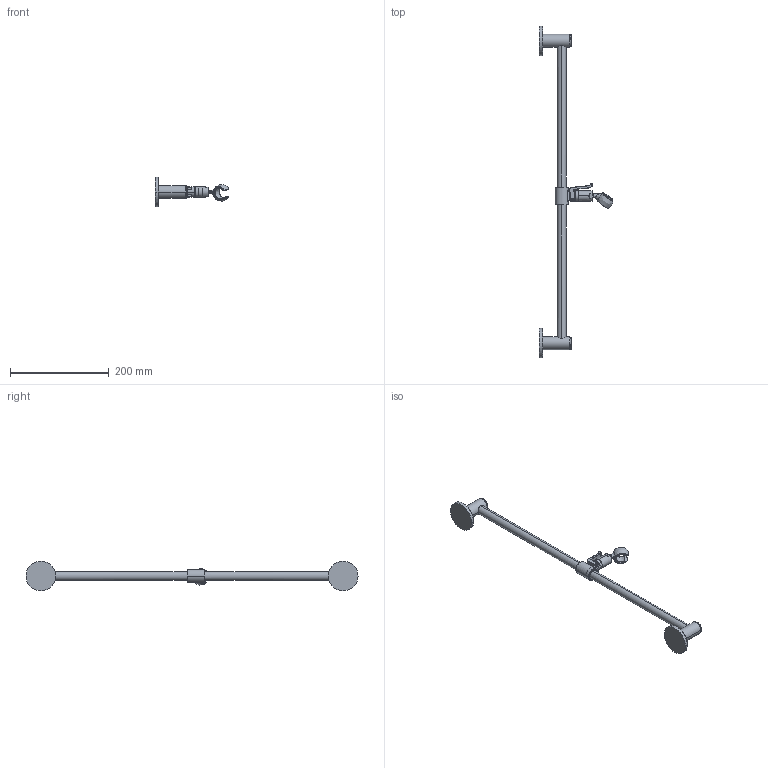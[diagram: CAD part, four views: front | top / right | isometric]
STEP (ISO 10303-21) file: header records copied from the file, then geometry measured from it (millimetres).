
FILE_DESCRIPTION((''),'2;1');
FILE_NAME('26_000_502_XXX','2012-04-19T',('lff'),(''),'PRO/ENGINEER BY PARAMETRIC TECHNOLOGY CORPORATION, 2011080','PRO/ENGINEER BY PARAMETRIC TECHNOLOGY CORPORATION, 2011080','');
FILE_SCHEMA(('AUTOMOTIVE_DESIGN_CC2 { 1 2 10303 214 -1 1 5 2 }'));
Length unit declared in the file: millimetre
Products named in the file (1): 26_000_502_XXX
Bounding box: 149.37 x 672 x 60 mm (x, y, z)
Volume: 267129.2 mm3; surface area: 78342.5 mm2
Topology: 1 solids, 4 shells, 280 faces, 651 edges, 392 vertices
Faces by surface type: cylinder 117, plane 58, bspline 55, torus 31, cone 11, sphere 8
Entity records: 12853 total; most frequent: CARTESIAN_POINT 6229, ORIENTED_EDGE 1286, DIRECTION 1221, EDGE_CURVE 643, AXIS2_PLACEMENT_3D 511, VERTEX_POINT 392, EDGE_LOOP 311, CIRCLE 286
